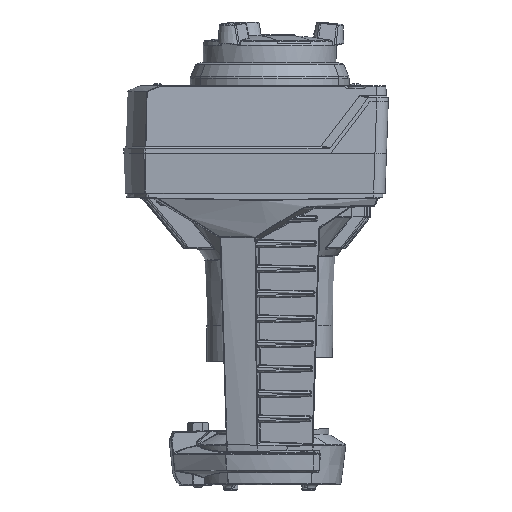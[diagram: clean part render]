
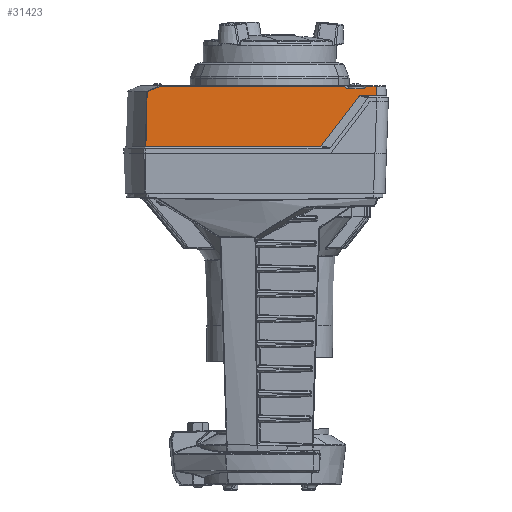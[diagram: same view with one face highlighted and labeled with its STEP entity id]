
A CAD part, left-side view. The second image highlights one B-rep face of the part: STEP entity #31423.
In plain terms, the highlighted planar face has unit normal (-0.999, 0, 0.035).
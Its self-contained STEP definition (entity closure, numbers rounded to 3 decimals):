
#28176=B_SPLINE_CURVE_WITH_KNOTS('',3,(#147345,#147346,#147347,#147348),
 .UNSPECIFIED.,.F.,.F.,(4,4),(0.,1.),.UNSPECIFIED.);
#28177=B_SPLINE_CURVE_WITH_KNOTS('',3,(#147367,#147368,#147369,#147370,#147371,
#147372,#147373),.UNSPECIFIED.,.F.,.F.,(4,3,4),(0.,0.498,1.),
 .UNSPECIFIED.);
#28178=B_SPLINE_CURVE_WITH_KNOTS('',3,(#147377,#147378,#147379,#147380),
 .UNSPECIFIED.,.F.,.F.,(4,4),(0.,1.),.UNSPECIFIED.);
#28179=B_SPLINE_CURVE_WITH_KNOTS('',3,(#147384,#147385,#147386,#147387),
 .UNSPECIFIED.,.F.,.F.,(4,4),(0.,1.),.UNSPECIFIED.);
#31423=ADVANCED_FACE('',(#35299),#32775,.T.);
#32775=PLANE('',#74309);
#35299=FACE_OUTER_BOUND('',#38557,.T.);
#38557=EDGE_LOOP('',(#51165,#51166,#51167,#51168,#51169,#51170,#51171,#51172,
#51173,#51174,#51175,#51176,#51177,#51178,#51179));
#39859=ELLIPSE('',#74307,0.5,0.5);
#39860=ELLIPSE('',#74308,0.5,0.5);
#51165=ORIENTED_EDGE('',*,*,#66156,.T.);
#51166=ORIENTED_EDGE('',*,*,#66157,.T.);
#51167=ORIENTED_EDGE('',*,*,#66158,.T.);
#51168=ORIENTED_EDGE('',*,*,#66159,.F.);
#51169=ORIENTED_EDGE('',*,*,#66160,.T.);
#51170=ORIENTED_EDGE('',*,*,#66161,.F.);
#51171=ORIENTED_EDGE('',*,*,#66162,.T.);
#51172=ORIENTED_EDGE('',*,*,#66116,.T.);
#51173=ORIENTED_EDGE('',*,*,#66163,.T.);
#51174=ORIENTED_EDGE('',*,*,#66164,.F.);
#51175=ORIENTED_EDGE('',*,*,#66165,.T.);
#51176=ORIENTED_EDGE('',*,*,#66166,.F.);
#51177=ORIENTED_EDGE('',*,*,#66167,.T.);
#51178=ORIENTED_EDGE('',*,*,#66105,.T.);
#51179=ORIENTED_EDGE('',*,*,#66152,.T.);
#59154=VERTEX_POINT('',#147161);
#59155=VERTEX_POINT('',#147163);
#59160=VERTEX_POINT('',#147181);
#59161=VERTEX_POINT('',#147183);
#59178=VERTEX_POINT('',#147312);
#59183=VERTEX_POINT('',#147374);
#59184=VERTEX_POINT('',#147376);
#59185=VERTEX_POINT('',#147381);
#59186=VERTEX_POINT('',#147383);
#59187=VERTEX_POINT('',#147388);
#59188=VERTEX_POINT('',#147390);
#59189=VERTEX_POINT('',#147393);
#59190=VERTEX_POINT('',#147395);
#59191=VERTEX_POINT('',#147397);
#59192=VERTEX_POINT('',#147399);
#66105=EDGE_CURVE('',#59155,#59154,#69267,.T.);
#66116=EDGE_CURVE('',#59160,#59161,#69270,.T.);
#66152=EDGE_CURVE('',#59154,#59178,#28176,.T.);
#66156=EDGE_CURVE('',#59178,#59183,#28177,.T.);
#66157=EDGE_CURVE('',#59183,#59184,#69284,.T.);
#66158=EDGE_CURVE('',#59184,#59185,#28178,.T.);
#66159=EDGE_CURVE('',#59186,#59185,#69285,.T.);
#66160=EDGE_CURVE('',#59186,#59187,#28179,.T.);
#66161=EDGE_CURVE('',#59188,#59187,#69286,.T.);
#66162=EDGE_CURVE('',#59188,#59160,#69287,.T.);
#66163=EDGE_CURVE('',#59161,#59189,#69288,.T.);
#66164=EDGE_CURVE('',#59190,#59189,#39859,.T.);
#66165=EDGE_CURVE('',#59190,#59191,#69289,.T.);
#66166=EDGE_CURVE('',#59192,#59191,#39860,.T.);
#66167=EDGE_CURVE('',#59192,#59155,#69290,.T.);
#69267=LINE('',#147162,#70938);
#69270=LINE('',#147184,#70941);
#69284=LINE('',#147375,#70955);
#69285=LINE('',#147382,#70956);
#69286=LINE('',#147389,#70957);
#69287=LINE('',#147391,#70958);
#69288=LINE('',#147392,#70959);
#69289=LINE('',#147396,#70960);
#69290=LINE('',#147400,#70961);
#70938=VECTOR('',#82514,1.);
#70941=VECTOR('',#82541,1.);
#70955=VECTOR('',#82621,1.);
#70956=VECTOR('',#82622,1.);
#70957=VECTOR('',#82623,1.);
#70958=VECTOR('',#82624,1.);
#70959=VECTOR('',#82625,1.);
#70960=VECTOR('',#82628,1.);
#70961=VECTOR('',#82631,1.);
#74307=AXIS2_PLACEMENT_3D('',#147394,#82626,#82627);
#74308=AXIS2_PLACEMENT_3D('',#147398,#82629,#82630);
#74309=AXIS2_PLACEMENT_3D('',#147401,#82632,#82633);
#82514=DIRECTION('',(0.,1.,0.));
#82541=DIRECTION('',(0.,1.,0.));
#82621=DIRECTION('',(0.,-1.,0.));
#82622=DIRECTION('',(-0.028,0.602,-0.798));
#82623=DIRECTION('',(0.,1.,0.));
#82624=DIRECTION('',(0.035,0.035,0.999));
#82625=DIRECTION('',(-0.028,0.602,-0.798));
#82626=DIRECTION('',(-0.999,0.,0.035));
#82627=DIRECTION('',(0.035,0.,0.999));
#82628=DIRECTION('',(0.,1.,0.));
#82629=DIRECTION('',(-0.999,0.,0.035));
#82630=DIRECTION('',(0.035,0.,0.999));
#82631=DIRECTION('',(0.028,0.602,0.798));
#82632=DIRECTION('',(-0.999,0.,0.035));
#82633=DIRECTION('',(0.035,0.,0.999));
#147161=CARTESIAN_POINT('',(-59.647,60.675,6.959));
#147162=CARTESIAN_POINT('',(-59.647,60.609,6.959));
#147163=CARTESIAN_POINT('',(-59.647,-42.245,6.959));
#147181=CARTESIAN_POINT('',(-59.647,-60.191,6.959));
#147183=CARTESIAN_POINT('',(-59.647,-54.755,6.959));
#147184=CARTESIAN_POINT('',(-59.647,-54.63,6.959));
#147312=CARTESIAN_POINT('',(-59.76,69.296,3.705));
#147345=CARTESIAN_POINT('',(-59.647,60.675,6.959));
#147346=CARTESIAN_POINT('',(-59.671,63.679,6.255));
#147347=CARTESIAN_POINT('',(-59.709,66.581,5.169));
#147348=CARTESIAN_POINT('',(-59.76,69.296,3.705));
#147367=CARTESIAN_POINT('',(-59.76,69.296,3.705));
#147368=CARTESIAN_POINT('',(-59.94,69.419,-1.441));
#147369=CARTESIAN_POINT('',(-60.12,69.541,-6.587));
#147370=CARTESIAN_POINT('',(-60.299,69.664,-11.732));
#147371=CARTESIAN_POINT('',(-60.48,69.787,-16.922));
#147372=CARTESIAN_POINT('',(-60.662,69.911,-22.111));
#147373=CARTESIAN_POINT('',(-60.843,70.034,-27.3));
#147374=CARTESIAN_POINT('',(-60.843,70.034,-27.3));
#147375=CARTESIAN_POINT('',(-60.843,2.155,-27.3));
#147376=CARTESIAN_POINT('',(-60.843,-28.411,-27.3));
#147377=CARTESIAN_POINT('',(-60.843,-28.411,-27.3));
#147378=CARTESIAN_POINT('',(-60.843,-28.725,-27.299));
#147379=CARTESIAN_POINT('',(-60.838,-29.018,-27.155));
#147380=CARTESIAN_POINT('',(-60.829,-29.21,-26.902));
#147381=CARTESIAN_POINT('',(-60.829,-29.21,-26.902));
#147382=CARTESIAN_POINT('',(-60.337,-39.836,-12.8));
#147383=CARTESIAN_POINT('',(-59.844,-50.463,1.302));
#147384=CARTESIAN_POINT('',(-59.844,-50.463,1.302));
#147385=CARTESIAN_POINT('',(-59.835,-50.652,1.552));
#147386=CARTESIAN_POINT('',(-59.83,-50.944,1.699));
#147387=CARTESIAN_POINT('',(-59.83,-51.262,1.7));
#147388=CARTESIAN_POINT('',(-59.83,-51.262,1.7));
#147389=CARTESIAN_POINT('',(-59.83,2.155,1.7));
#147390=CARTESIAN_POINT('',(-59.83,-60.374,1.7));
#147391=CARTESIAN_POINT('',(-60.923,-61.466,-29.581));
#147392=CARTESIAN_POINT('',(-61.465,-15.522,-45.105));
#147393=CARTESIAN_POINT('',(-59.692,-53.775,5.658));
#147394=CARTESIAN_POINT('',(-59.681,-53.375,5.959));
#147395=CARTESIAN_POINT('',(-59.699,-53.375,5.459));
#147396=CARTESIAN_POINT('',(-59.699,-43.5,5.459));
#147397=CARTESIAN_POINT('',(-59.699,-43.625,5.459));
#147398=CARTESIAN_POINT('',(-59.681,-43.625,5.959));
#147399=CARTESIAN_POINT('',(-59.692,-43.225,5.658));
#147400=CARTESIAN_POINT('',(-59.643,-42.174,7.053));
#147401=CARTESIAN_POINT('',(-61.,2.155,-31.8));
